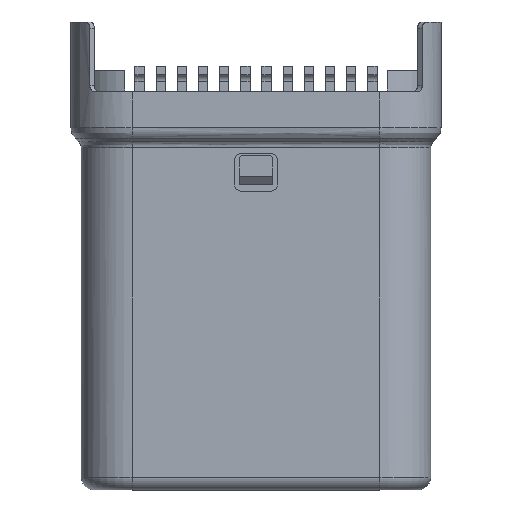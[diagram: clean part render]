
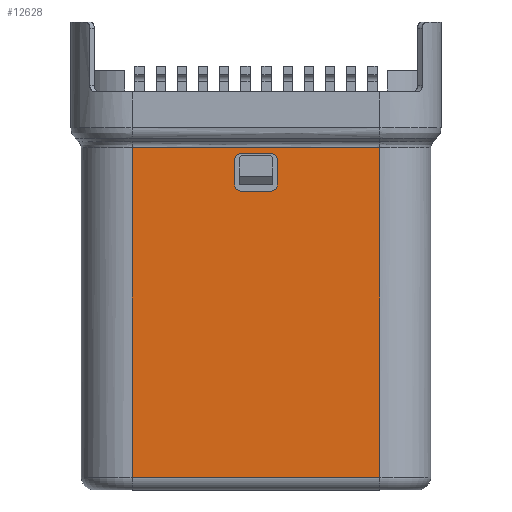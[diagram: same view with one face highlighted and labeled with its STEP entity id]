
A CAD part, top view. The second image highlights one B-rep face of the part: STEP entity #12628.
In plain terms, the highlighted planar face has unit normal (0, 0, 1).
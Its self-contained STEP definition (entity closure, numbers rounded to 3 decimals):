
#16 = CARTESIAN_POINT ( 'NONE',  ( 2.925, 8.077, 1.2 ) ) ;
#744 = DIRECTION ( 'NONE',  ( -1., 0., 0. ) ) ;
#915 = VECTOR ( 'NONE', #33204, 1000. ) ;
#1660 = CIRCLE ( 'NONE', #6427, 0.15 ) ;
#2107 = VECTOR ( 'NONE', #25356, 1000. ) ;
#2479 = ORIENTED_EDGE ( 'NONE', *, *, #4556, .T. ) ;
#2575 = EDGE_CURVE ( 'NONE', #21023, #24880, #29959, .T. ) ;
#2721 = VECTOR ( 'NONE', #20328, 1000. ) ;
#3011 = CARTESIAN_POINT ( 'NONE',  ( 0.35, 7.801, 1.2 ) ) ;
#3310 = CARTESIAN_POINT ( 'NONE',  ( -1.721, 8.077, 1.2 ) ) ;
#3987 = VERTEX_POINT ( 'NONE', #24714 ) ;
#4132 = EDGE_CURVE ( 'NONE', #28431, #28171, #12501, .T. ) ;
#4396 = CARTESIAN_POINT ( 'NONE',  ( -0.5, 8.16, 1.2 ) ) ;
#4556 = EDGE_CURVE ( 'NONE', #6315, #3987, #20509, .T. ) ;
#4638 = EDGE_CURVE ( 'NONE', #34190, #17731, #10282, .T. ) ;
#5537 = CARTESIAN_POINT ( 'NONE',  ( -2.925, 7.051, 1.2 ) ) ;
#6258 = CARTESIAN_POINT ( 'NONE',  ( -2.651, 8.077, 1.2 ) ) ;
#6315 = VERTEX_POINT ( 'NONE', #24953 ) ;
#6375 = CARTESIAN_POINT ( 'NONE',  ( -2.925, 7.951, 1.2 ) ) ;
#6427 = AXIS2_PLACEMENT_3D ( 'NONE', #3011, #17664, #26112 ) ;
#6516 = DIRECTION ( 'NONE',  ( 0., -1., 0. ) ) ;
#6538 = CARTESIAN_POINT ( 'NONE',  ( 0.5, 8.16, 1.2 ) ) ;
#7402 = EDGE_CURVE ( 'NONE', #24451, #6315, #8054, .T. ) ;
#8054 = LINE ( 'NONE', #5537, #18636 ) ;
#8378 = DIRECTION ( 'NONE',  ( -1., 0., 0. ) ) ;
#8726 = DIRECTION ( 'NONE',  ( 1., 0., 0. ) ) ;
#8859 = CARTESIAN_POINT ( 'NONE',  ( -2.925, 8.077, 1.2 ) ) ;
#8990 = CARTESIAN_POINT ( 'NONE',  ( -1.338, 8.077, 1.2 ) ) ;
#9174 = ORIENTED_EDGE ( 'NONE', *, *, #4638, .T. ) ;
#9234 = CARTESIAN_POINT ( 'NONE',  ( 1.632, 8.077, 1.2 ) ) ;
#9290 = AXIS2_PLACEMENT_3D ( 'NONE', #17733, #31639, #744 ) ;
#9354 = CARTESIAN_POINT ( 'NONE',  ( -0.954, 8.077, 1.2 ) ) ;
#9398 = B_SPLINE_CURVE_WITH_KNOTS ( 'NONE', 3,
 ( #29269, #9234, #34851, #9354, #8990, #3310, #29019, #23156, #6258, #8859 ),
 .UNSPECIFIED., .F., .F.,
 ( 4, 3, 3, 4 ),
 ( 0., 0.004, 0.005, 0.006 ),
 .UNSPECIFIED. ) ;
#10282 = LINE ( 'NONE', #6538, #2721 ) ;
#11006 = LINE ( 'NONE', #32096, #20768 ) ;
#11267 = CARTESIAN_POINT ( 'NONE',  ( -2.925, 8.16, 1.2 ) ) ;
#12493 = AXIS2_PLACEMENT_3D ( 'NONE', #14556, #34466, #28874 ) ;
#12501 = LINE ( 'NONE', #33647, #31198 ) ;
#12522 = CARTESIAN_POINT ( 'NONE',  ( 0.35, 7.051, 1.2 ) ) ;
#12543 = ORIENTED_EDGE ( 'NONE', *, *, #17850, .T. ) ;
#12619 = CARTESIAN_POINT ( 'NONE',  ( -2.925, 0.3, 1.2 ) ) ;
#12628 = ADVANCED_FACE ( 'NONE', ( #34021, #16232 ), #13976, .F. ) ;
#13976 = PLANE ( 'NONE',  #19088 ) ;
#14326 = CARTESIAN_POINT ( 'NONE',  ( 0.5, 7.201, 1.2 ) ) ;
#14345 = CARTESIAN_POINT ( 'NONE',  ( -0.35, 7.201, 1.2 ) ) ;
#14556 = CARTESIAN_POINT ( 'NONE',  ( -0.35, 7.801, 1.2 ) ) ;
#14942 = CARTESIAN_POINT ( 'NONE',  ( -0.35, 7.951, 1.2 ) ) ;
#15494 = EDGE_CURVE ( 'NONE', #3987, #21023, #19986, .T. ) ;
#15562 = ORIENTED_EDGE ( 'NONE', *, *, #4132, .T. ) ;
#16232 = FACE_OUTER_BOUND ( 'NONE', #18156, .T. ) ;
#16762 = ORIENTED_EDGE ( 'NONE', *, *, #2575, .T. ) ;
#16773 = LINE ( 'NONE', #36172, #2107 ) ;
#16832 = DIRECTION ( 'NONE',  ( 0., 0., -1. ) ) ;
#16841 = DIRECTION ( 'NONE',  ( 0., 0., -1. ) ) ;
#16956 = CARTESIAN_POINT ( 'NONE',  ( 2.925, 0.3, 1.2 ) ) ;
#17248 = CARTESIAN_POINT ( 'NONE',  ( 0.5, 7.801, 1.2 ) ) ;
#17664 = DIRECTION ( 'NONE',  ( 0., 0., -1. ) ) ;
#17731 = VERTEX_POINT ( 'NONE', #14326 ) ;
#17733 = CARTESIAN_POINT ( 'NONE',  ( 0.35, 7.201, 1.2 ) ) ;
#17850 = EDGE_CURVE ( 'NONE', #36262, #33186, #9398, .T. ) ;
#18156 = EDGE_LOOP ( 'NONE', ( #29365, #15562, #34155, #12543 ) ) ;
#18181 = ORIENTED_EDGE ( 'NONE', *, *, #7402, .T. ) ;
#18636 = VECTOR ( 'NONE', #22433, 1000. ) ;
#19088 = AXIS2_PLACEMENT_3D ( 'NONE', #11267, #16832, #8378 ) ;
#19986 = LINE ( 'NONE', #4396, #915 ) ;
#20328 = DIRECTION ( 'NONE',  ( 0., -1., 0. ) ) ;
#20509 = CIRCLE ( 'NONE', #22255, 0.15 ) ;
#20768 = VECTOR ( 'NONE', #6516, 1000. ) ;
#21023 = VERTEX_POINT ( 'NONE', #23311 ) ;
#21108 = ORIENTED_EDGE ( 'NONE', *, *, #23771, .T. ) ;
#21191 = CARTESIAN_POINT ( 'NONE',  ( 0.35, 7.951, 1.2 ) ) ;
#22255 = AXIS2_PLACEMENT_3D ( 'NONE', #14345, #16841, #34244 ) ;
#22433 = DIRECTION ( 'NONE',  ( -1., 0., 0. ) ) ;
#22877 = VECTOR ( 'NONE', #8726, 1000. ) ;
#22951 = VERTEX_POINT ( 'NONE', #21191 ) ;
#23098 = ORIENTED_EDGE ( 'NONE', *, *, #15494, .T. ) ;
#23156 = CARTESIAN_POINT ( 'NONE',  ( -2.378, 8.077, 1.2 ) ) ;
#23261 = EDGE_LOOP ( 'NONE', ( #9174, #25179, #18181, #2479, #23098, #16762, #26389, #21108 ) ) ;
#23311 = CARTESIAN_POINT ( 'NONE',  ( -0.5, 7.801, 1.2 ) ) ;
#23771 = EDGE_CURVE ( 'NONE', #22951, #34190, #1660, .T. ) ;
#24287 = EDGE_CURVE ( 'NONE', #17731, #24451, #24741, .T. ) ;
#24451 = VERTEX_POINT ( 'NONE', #12522 ) ;
#24714 = CARTESIAN_POINT ( 'NONE',  ( -0.5, 7.201, 1.2 ) ) ;
#24741 = CIRCLE ( 'NONE', #9290, 0.15 ) ;
#24880 = VERTEX_POINT ( 'NONE', #14942 ) ;
#24953 = CARTESIAN_POINT ( 'NONE',  ( -0.35, 7.051, 1.2 ) ) ;
#25179 = ORIENTED_EDGE ( 'NONE', *, *, #24287, .T. ) ;
#25356 = DIRECTION ( 'NONE',  ( 0., -1., 0. ) ) ;
#26112 = DIRECTION ( 'NONE',  ( -1., 0., 0. ) ) ;
#26389 = ORIENTED_EDGE ( 'NONE', *, *, #31575, .T. ) ;
#26901 = CARTESIAN_POINT ( 'NONE',  ( -2.925, 8.077, 1.2 ) ) ;
#28171 = VERTEX_POINT ( 'NONE', #16956 ) ;
#28431 = VERTEX_POINT ( 'NONE', #12619 ) ;
#28874 = DIRECTION ( 'NONE',  ( -1., 0., 0. ) ) ;
#29019 = CARTESIAN_POINT ( 'NONE',  ( -2.104, 8.077, 1.2 ) ) ;
#29269 = CARTESIAN_POINT ( 'NONE',  ( 2.925, 8.077, 1.2 ) ) ;
#29365 = ORIENTED_EDGE ( 'NONE', *, *, #30082, .T. ) ;
#29959 = CIRCLE ( 'NONE', #12493, 0.15 ) ;
#30082 = EDGE_CURVE ( 'NONE', #33186, #28431, #11006, .T. ) ;
#31039 = DIRECTION ( 'NONE',  ( 1., 0., 0. ) ) ;
#31198 = VECTOR ( 'NONE', #31039, 1000. ) ;
#31325 = LINE ( 'NONE', #6375, #22877 ) ;
#31575 = EDGE_CURVE ( 'NONE', #24880, #22951, #31325, .T. ) ;
#31639 = DIRECTION ( 'NONE',  ( 0., 0., -1. ) ) ;
#32096 = CARTESIAN_POINT ( 'NONE',  ( -2.925, 8.16, 1.2 ) ) ;
#33186 = VERTEX_POINT ( 'NONE', #26901 ) ;
#33204 = DIRECTION ( 'NONE',  ( 0., 1., 0. ) ) ;
#33566 = EDGE_CURVE ( 'NONE', #36262, #28171, #16773, .T. ) ;
#33647 = CARTESIAN_POINT ( 'NONE',  ( 2.925, 0.3, 1.2 ) ) ;
#34021 = FACE_BOUND ( 'NONE', #23261, .T. ) ;
#34155 = ORIENTED_EDGE ( 'NONE', *, *, #33566, .F. ) ;
#34190 = VERTEX_POINT ( 'NONE', #17248 ) ;
#34244 = DIRECTION ( 'NONE',  ( -1., 0., 0. ) ) ;
#34466 = DIRECTION ( 'NONE',  ( 0., 0., -1. ) ) ;
#34851 = CARTESIAN_POINT ( 'NONE',  ( 0.339, 8.077, 1.2 ) ) ;
#36172 = CARTESIAN_POINT ( 'NONE',  ( 2.925, 8.16, 1.2 ) ) ;
#36262 = VERTEX_POINT ( 'NONE', #16 ) ;
